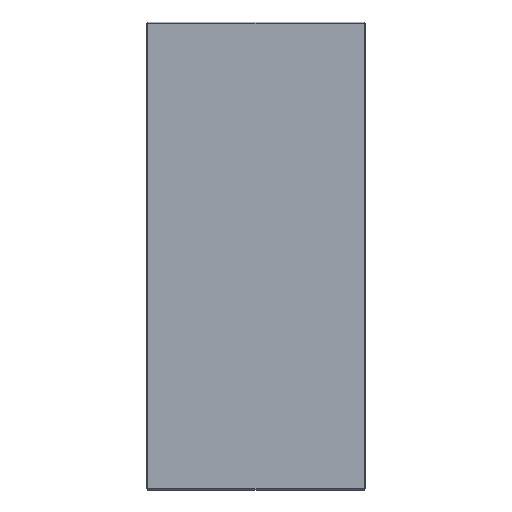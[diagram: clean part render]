
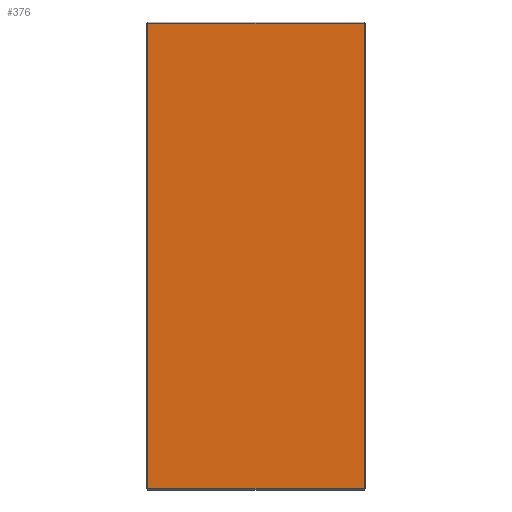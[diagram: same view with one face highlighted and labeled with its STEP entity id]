
A CAD part, top view. The second image highlights one B-rep face of the part: STEP entity #376.
In plain terms, the highlighted planar face has unit normal (0, 0, 1).
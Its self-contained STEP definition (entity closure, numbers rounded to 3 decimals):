
#16 = FACE_OUTER_BOUND ( 'NONE', #190, .T. ) ;
#22 = CARTESIAN_POINT ( 'NONE',  ( 103., -222., 22. ) ) ;
#39 = DIRECTION ( 'NONE',  ( -1., 0., 0. ) ) ;
#53 = DIRECTION ( 'NONE',  ( 1., 0., 0. ) ) ;
#59 = EDGE_CURVE ( 'NONE', #65, #248, #111, .T. ) ;
#60 = EDGE_CURVE ( 'NONE', #71, #199, #476, .T. ) ;
#61 = CARTESIAN_POINT ( 'NONE',  ( -103., 222., 22. ) ) ;
#62 = AXIS2_PLACEMENT_3D ( 'NONE', #295, #221, #53 ) ;
#65 = VERTEX_POINT ( 'NONE', #99 ) ;
#71 = VERTEX_POINT ( 'NONE', #471 ) ;
#99 = CARTESIAN_POINT ( 'NONE',  ( 103., 222., 22. ) ) ;
#105 = LINE ( 'NONE', #156, #642 ) ;
#111 = LINE ( 'NONE', #456, #411 ) ;
#156 = CARTESIAN_POINT ( 'NONE',  ( 103., 223., 22. ) ) ;
#157 = ORIENTED_EDGE ( 'NONE', *, *, #290, .T. ) ;
#177 = LINE ( 'NONE', #474, #404 ) ;
#190 = EDGE_LOOP ( 'NONE', ( #157, #229, #504, #441 ) ) ;
#199 = VERTEX_POINT ( 'NONE', #22 ) ;
#221 = DIRECTION ( 'NONE',  ( 0., 0., 1. ) ) ;
#223 = EDGE_CURVE ( 'NONE', #248, #71, #177, .T. ) ;
#229 = ORIENTED_EDGE ( 'NONE', *, *, #59, .T. ) ;
#248 = VERTEX_POINT ( 'NONE', #61 ) ;
#290 = EDGE_CURVE ( 'NONE', #199, #65, #105, .T. ) ;
#295 = CARTESIAN_POINT ( 'NONE',  ( 0., 0., 22. ) ) ;
#314 = DIRECTION ( 'NONE',  ( 0., 1., 0. ) ) ;
#350 = DIRECTION ( 'NONE',  ( 1., 0., 0. ) ) ;
#376 = ADVANCED_FACE ( 'NONE', ( #16 ), #421, .T. ) ;
#389 = CARTESIAN_POINT ( 'NONE',  ( 104., -222., 22. ) ) ;
#404 = VECTOR ( 'NONE', #470, 1000. ) ;
#411 = VECTOR ( 'NONE', #39, 1000. ) ;
#421 = PLANE ( 'NONE',  #62 ) ;
#441 = ORIENTED_EDGE ( 'NONE', *, *, #60, .T. ) ;
#456 = CARTESIAN_POINT ( 'NONE',  ( -104., 222., 22. ) ) ;
#470 = DIRECTION ( 'NONE',  ( 0., -1., 0. ) ) ;
#471 = CARTESIAN_POINT ( 'NONE',  ( -103., -222., 22. ) ) ;
#474 = CARTESIAN_POINT ( 'NONE',  ( -103., -223., 22. ) ) ;
#476 = LINE ( 'NONE', #389, #602 ) ;
#504 = ORIENTED_EDGE ( 'NONE', *, *, #223, .T. ) ;
#602 = VECTOR ( 'NONE', #350, 1000. ) ;
#642 = VECTOR ( 'NONE', #314, 1000. ) ;
